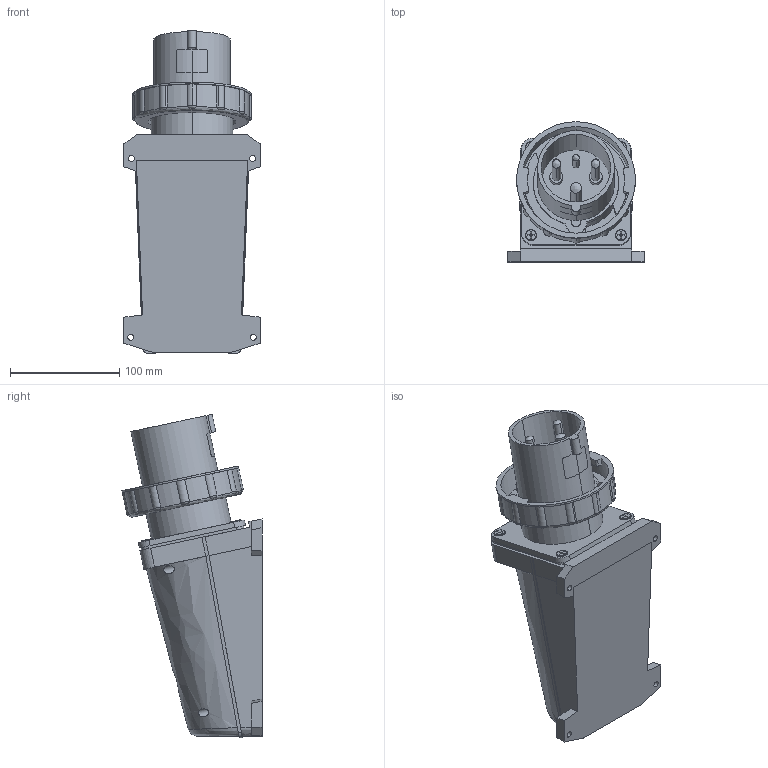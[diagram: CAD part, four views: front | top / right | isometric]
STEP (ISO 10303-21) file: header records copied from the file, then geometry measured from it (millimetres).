
FILE_DESCRIPTION (( 'STEP AP203' ), '1' );
FILE_NAME ('TLM63632.STEP', '2018-06-20T16:27:32', ( '' ), ( '' ), 'SwSTEP 2.0', 'SolidWorks 2012', '' );
FILE_SCHEMA (( 'CONFIG_CONTROL_DESIGN' ));
Length unit declared in the file: millimetre
Products named in the file (1): TLM63632
Bounding box: 125 x 128.53 x 296.5 mm (x, y, z)
Volume: 1723582.8 mm3; surface area: 168320.8 mm2
Topology: 1 solids, 1 shells, 499 faces, 1326 edges, 864 vertices
Faces by surface type: plane 318, cylinder 134, torus 33, bspline 14
Entity records: 17627 total; most frequent: CARTESIAN_POINT 5185, ORIENTED_EDGE 2652, DIRECTION 2483, EDGE_CURVE 1326, VERTEX_POINT 864, AXIS2_PLACEMENT_3D 845, VECTOR 793, LINE 793
